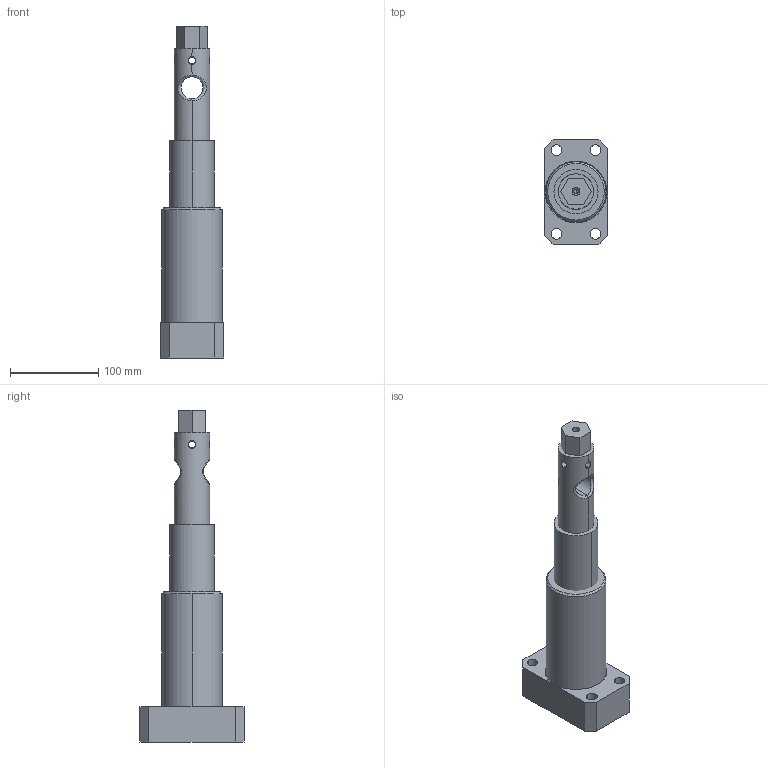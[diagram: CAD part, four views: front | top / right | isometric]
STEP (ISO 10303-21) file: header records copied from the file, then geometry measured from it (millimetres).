
FILE_DESCRIPTION (( 'STEP AP214' ), '1' );
FILE_NAME ('YYDK-500-0041-A 丝杠调节组件.STEP', '2025-06-18T08:21:47', ( 'Windows 用户' ), ( '' ), 'SwSTEP 2.0', 'SolidWorks 2020', '' );
FILE_SCHEMA (( 'AUTOMOTIVE_DESIGN' ));
Length unit declared in the file: millimetre
Products named in the file (4): YYDK-500-0044 ﾋｿｸﾜﾌﾗﾍｲ_ﾄｬﾈﾏ<ｰｴｼﾓｹ､>; YYDK-500-0041-2 丝杠底座（500T）_默认<按加工>; YYDK-500-0045 丝杠（500T）; YYDK-500-0041-A 佪話覃誹郪璃
Assembly tree (3 placements, depth 2):
  YYDK-500-0041-A 佪話覃誹郪璃
    YYDK-500-0041-2 丝杠底座（500T）_默认<按加工>
    YYDK-500-0044 ﾋｿｸﾜﾌﾗﾍｲ_ﾄｬﾈﾏ<ｰｴｼﾓｹ､>
    YYDK-500-0045 丝杠（500T）
Bounding box: 72 x 118 x 376 mm (x, y, z)
Volume: 924691 mm3; surface area: 132678.8 mm2
Topology: 3 solids, 3 shells, 85 faces, 241 edges, 156 vertices
Faces by surface type: cylinder 40, plane 25, bspline 12, cone 8
Entity records: 10176 total; most frequent: CARTESIAN_POINT 7904, ORIENTED_EDGE 482, DIRECTION 381, EDGE_CURVE 241, VERTEX_POINT 156, AXIS2_PLACEMENT_3D 142, EDGE_LOOP 103, VECTOR 97
